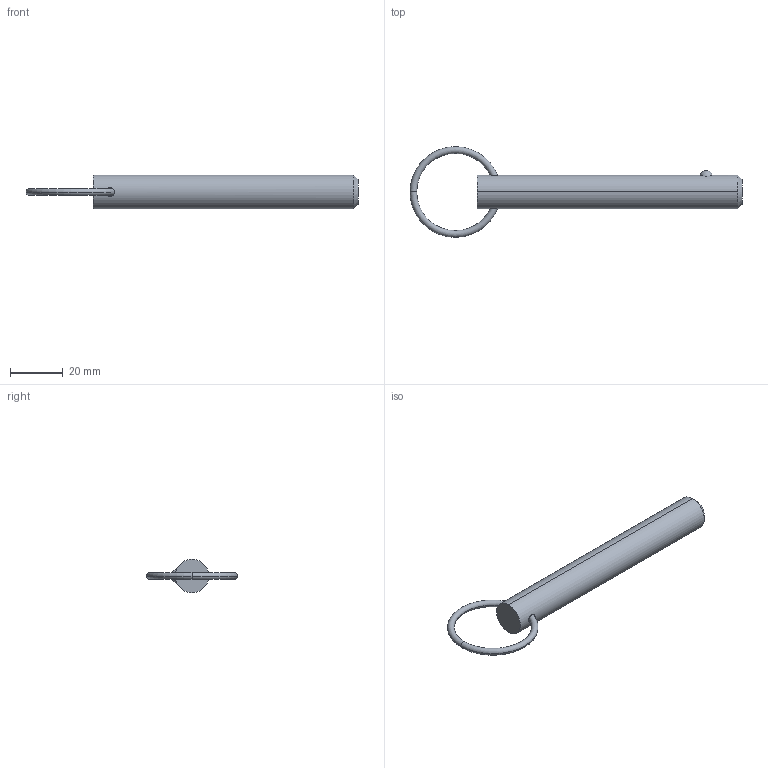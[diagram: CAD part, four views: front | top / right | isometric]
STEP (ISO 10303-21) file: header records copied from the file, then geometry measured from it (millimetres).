
FILE_DESCRIPTION (( 'STEP AP203' ), '1' );
FILE_NAME ('33012.W5030.step', '2024-11-01T14:13:14', ( '' ), ( '' ), 'SwSTEP 2.0', 'SolidWorks 2019', '' );
FILE_SCHEMA (( 'CONFIG_CONTROL_DESIGN' ));
Length unit declared in the file: millimetre
Products named in the file (3): Part2_33012.W5030; Part1_33012.W5030; 33012.W5030
Assembly tree (2 placements, depth 2):
  33012.W5030
    Part1_33012.W5030
    Part2_33012.W5030
Bounding box: 125.49 x 34.29 x 12.7 mm (x, y, z)
Volume: 13044.5 mm3; surface area: 5122 mm2
Topology: 2 solids, 2 shells, 16 faces, 31 edges, 18 vertices
Faces by surface type: torus 8, sphere 2, cone 2, cylinder 2, plane 2
Entity records: 885 total; most frequent: CARTESIAN_POINT 242, DIRECTION 88, ORIENTED_EDGE 62, AXIS2_PLACEMENT_3D 42, EDGE_CURVE 31, PERSON_AND_ORGANIZATION 26, CIRCLE 21, LOCAL_TIME 19
